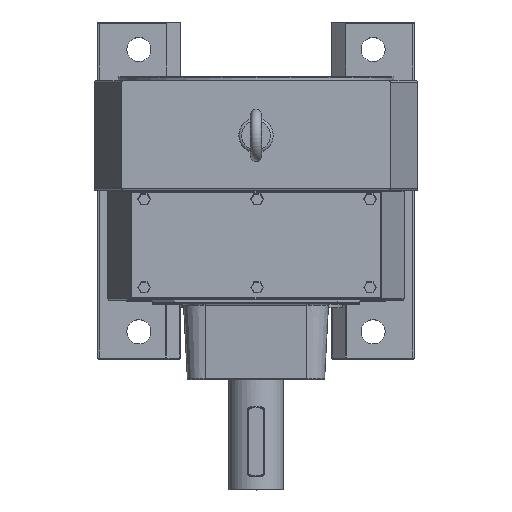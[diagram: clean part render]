
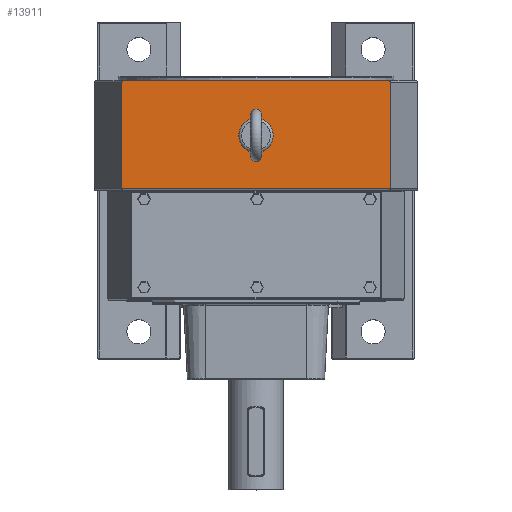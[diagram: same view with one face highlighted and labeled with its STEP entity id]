
A CAD part, top view. The second image highlights one B-rep face of the part: STEP entity #13911.
In plain terms, the highlighted planar face has unit normal (0, 0, 1).
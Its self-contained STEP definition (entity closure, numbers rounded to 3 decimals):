
#4966=CARTESIAN_POINT('',(12.5,39.75,228.0));
#4967=VERTEX_POINT('',#4966);
#4968=CARTESIAN_POINT('',(0.,39.75,228.0));
#4969=DIRECTION('',(0.0,0.0,-1.0));
#4970=DIRECTION('',(0.707,0.707,0.0));
#4971=AXIS2_PLACEMENT_3D('',#4968,#4969,#4970);
#4972=CIRCLE('',#4971,12.5);
#4973=EDGE_CURVE('',#4967,#4967,#4972,.F.);
#6194=CARTESIAN_POINT('',(-97.5,78.5,228.));
#6195=VERTEX_POINT('',#6194);
#6196=CARTESIAN_POINT('',(-96.417,79.5,228.));
#6197=VERTEX_POINT('',#6196);
#6198=CARTESIAN_POINT('',(-96.417,78.5,228.));
#6199=DIRECTION('',(0.0,0.0,-1.0));
#6200=DIRECTION('',(-1.0,0.0,0.0));
#6201=AXIS2_PLACEMENT_3D('',#6198,#6199,#6200);
#6202=ELLIPSE('',#6201,1.083,1.0);
#6203=EDGE_CURVE('',#6195,#6197,#6202,.T.);
#6441=CARTESIAN_POINT('',(96.417,79.5,228.));
#6442=VERTEX_POINT('',#6441);
#6443=CARTESIAN_POINT('',(96.417,79.5,228.));
#6444=DIRECTION('',(-1.0,0.0,0.0));
#6445=VECTOR('',#6444,192.833);
#6446=LINE('',#6443,#6445);
#6447=EDGE_CURVE('',#6442,#6197,#6446,.T.);
#6694=CARTESIAN_POINT('',(97.5,78.5,228.));
#6695=VERTEX_POINT('',#6694);
#6696=CARTESIAN_POINT('',(96.417,78.5,228.));
#6697=DIRECTION('',(0.0,0.0,-1.0));
#6698=DIRECTION('',(1.0,0.0,0.0));
#6699=AXIS2_PLACEMENT_3D('',#6696,#6697,#6698);
#6700=ELLIPSE('',#6699,1.083,1.);
#6701=EDGE_CURVE('',#6442,#6695,#6700,.T.);
#6928=CARTESIAN_POINT('',(-97.5,1.0,228.));
#6929=VERTEX_POINT('',#6928);
#6960=CARTESIAN_POINT('',(97.5,1.,228.));
#6961=VERTEX_POINT('',#6960);
#6969=CARTESIAN_POINT('',(97.5,1.,228.));
#6970=DIRECTION('',(-1.0,0.0,0.0));
#6971=VECTOR('',#6970,195.0);
#6972=LINE('',#6969,#6971);
#6973=EDGE_CURVE('',#6961,#6929,#6972,.T.);
#13885=CARTESIAN_POINT('',(0.0,0.0,228.0));
#13886=DIRECTION('',(0.0,0.0,1.0));
#13887=DIRECTION('',(1.0,0.0,0.0));
#13888=AXIS2_PLACEMENT_3D('',#13885,#13886,#13887);
#13889=PLANE('',#13888);
#13890=ORIENTED_EDGE('',*,*,#6203,.F.);
#13891=CARTESIAN_POINT('',(-97.5,1.0,228.));
#13892=DIRECTION('',(0.0,1.0,0.0));
#13893=VECTOR('',#13892,77.5);
#13894=LINE('',#13891,#13893);
#13895=EDGE_CURVE('',#6929,#6195,#13894,.T.);
#13896=ORIENTED_EDGE('',*,*,#13895,.F.);
#13897=ORIENTED_EDGE('',*,*,#6973,.F.);
#13898=CARTESIAN_POINT('',(97.5,1.,228.));
#13899=DIRECTION('',(0.0,1.0,0.0));
#13900=VECTOR('',#13899,77.5);
#13901=LINE('',#13898,#13900);
#13902=EDGE_CURVE('',#6961,#6695,#13901,.T.);
#13903=ORIENTED_EDGE('',*,*,#13902,.T.);
#13904=ORIENTED_EDGE('',*,*,#6701,.F.);
#13905=ORIENTED_EDGE('',*,*,#6447,.T.);
#13906=EDGE_LOOP('',(#13890,#13896,#13897,#13903,#13904,#13905));
#13907=FACE_OUTER_BOUND('',#13906,.T.);
#13908=ORIENTED_EDGE('',*,*,#4973,.F.);
#13909=EDGE_LOOP('',(#13908));
#13910=FACE_BOUND('',#13909,.T.);
#13911=ADVANCED_FACE('',(#13907,#13910),#13889,.T.);
